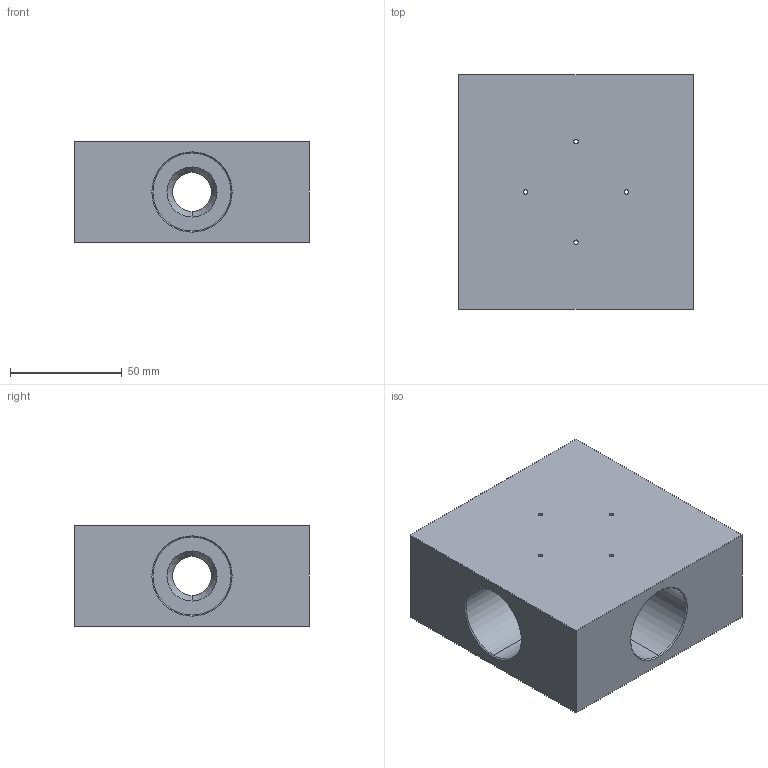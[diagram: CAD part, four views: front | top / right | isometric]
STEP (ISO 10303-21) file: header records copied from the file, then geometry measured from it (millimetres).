
FILE_DESCRIPTION (( 'STEP AP203' ), '1' );
FILE_NAME ('FT20CS16.STEP', '2026-06-26T00:49:17', ( 'USER' ), ( '' ), 'SwSTEP 2.0', 'SolidWorks 2023', '' );
FILE_SCHEMA (( 'CONFIG_CONTROL_DESIGN' ));
Length unit declared in the file: millimetre
Products named in the file (1): FT20CS16
Bounding box: 105 x 105 x 45 mm (x, y, z)
Volume: 352152 mm3; surface area: 57359.3 mm2
Topology: 1 solids, 1 shells, 58 faces, 152 edges, 90 vertices
Faces by surface type: cylinder 32, cone 16, plane 10
Entity records: 2097 total; most frequent: CARTESIAN_POINT 577, ORIENTED_EDGE 304, DIRECTION 298, EDGE_CURVE 152, AXIS2_PLACEMENT_3D 115, VERTEX_POINT 90, EDGE_LOOP 74, VECTOR 68
